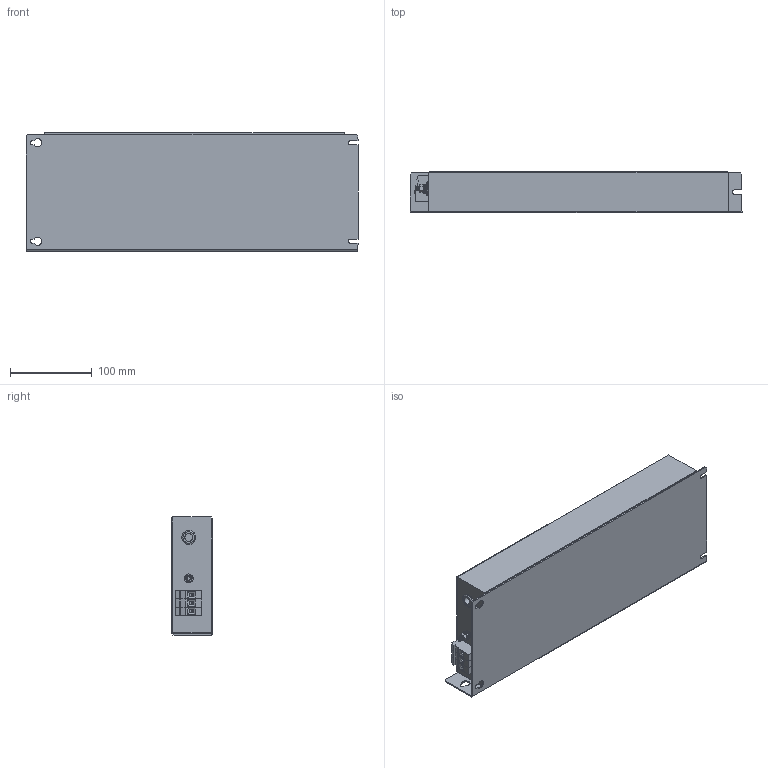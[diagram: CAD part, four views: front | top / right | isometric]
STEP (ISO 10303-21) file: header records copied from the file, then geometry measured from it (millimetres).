
FILE_DESCRIPTION (( 'STEP AP203' ), '1' );
FILE_NAME ('NF-U-LE-8400-34022 & 34030.STEP', '2024-04-16T13:21:03', ( '' ), ( '' ), 'SwSTEP 2.0', 'SolidWorks 2017', '' );
FILE_SCHEMA (( 'CONFIG_CONTROL_DESIGN' ));
Length unit declared in the file: millimetre
Products named in the file (9): VDFK6x3; M5x13 Earth post; hex screw_am_B18.6.7M - M5 x 0.8 x 13 Indented HHMS --13S; Grommet_15084; NF-U-LE-8400-34022 & 34030; hex nut style 1_am_B18.2.4.1M - Hex nut, Style 1,  M5 x 0.8 --D-N; 84LZ5; flat washer narrow_am_B18.22M - Plain washer, 5 mm, narrow; VDFK-6
Assembly tree (11 placements, depth 3):
  NF-U-LE-8400-34022 & 34030
    84LZ5
    VDFK6x3
      VDFK-6  x3
    M5x13 Earth post
      hex screw_am_B18.6.7M - M5 x 0.8 x 13 Indented HHMS --13S
      flat washer narrow_am_B18.22M - Plain washer, 5 mm, narrow  x2
      hex nut style 1_am_B18.2.4.1M - Hex nut, Style 1,  M5 x 0.8 --D-N
    Grommet_15084
Bounding box: 405 x 50 x 144 mm (x, y, z)
Volume: 2648571.6 mm3; surface area: 181635.2 mm2
Topology: 9 solids, 9 shells, 435 faces, 1066 edges, 664 vertices
Faces by surface type: plane 203, cylinder 122, cone 104, torus 4, sphere 2
Entity records: 10515 total; most frequent: CARTESIAN_POINT 1755, DIRECTION 1750, ORIENTED_EDGE 1548, EDGE_CURVE 774, AXIS2_PLACEMENT_3D 679, VERTEX_POINT 484, LINE 392, VECTOR 392
